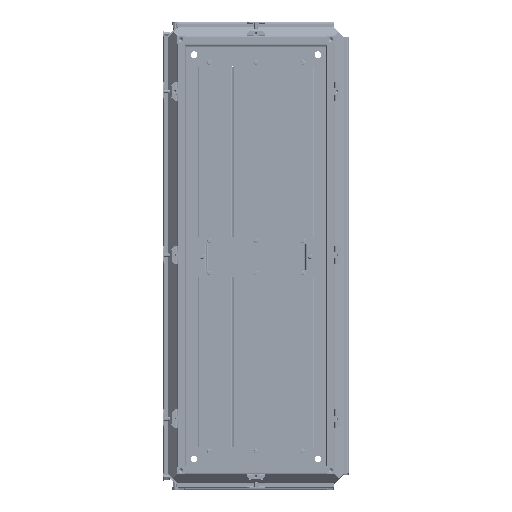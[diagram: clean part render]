
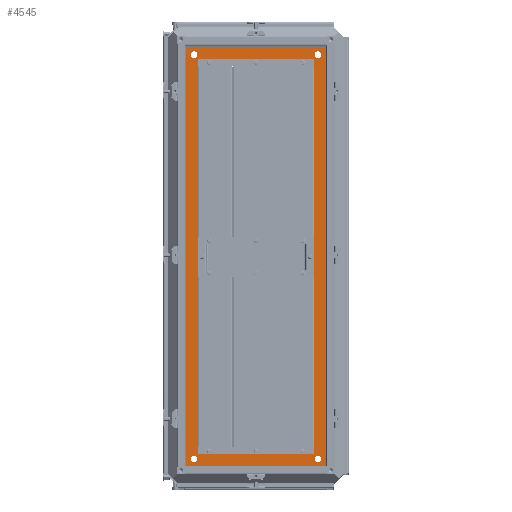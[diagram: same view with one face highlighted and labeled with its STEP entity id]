
A CAD part, top view. The second image highlights one B-rep face of the part: STEP entity #4545.
In plain terms, the highlighted planar face has unit normal (0, 0, 1).
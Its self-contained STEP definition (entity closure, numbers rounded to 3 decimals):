
#4545=ADVANCED_FACE('',(#18727,#18729,#18731,#18733,#18735,#18737),#18739,.F.);
#18727=FACE_BOUND('',#18728,.T.);
#18728=EDGE_LOOP('',(#129859,#129860,#129861,#129862));
#18729=FACE_BOUND('',#18730,.T.);
#18730=EDGE_LOOP('',(#129863,#129864,#129865,#129866));
#18731=FACE_BOUND('',#18732,.T.);
#18732=EDGE_LOOP('',(#129867));
#18733=FACE_BOUND('',#18734,.T.);
#18734=EDGE_LOOP('',(#129868));
#18735=FACE_BOUND('',#18736,.T.);
#18736=EDGE_LOOP('',(#129869));
#18737=FACE_BOUND('',#18738,.T.);
#18738=EDGE_LOOP('',(#129870));
#18739=PLANE('',#18740);
#18740=AXIS2_PLACEMENT_3D('',#18741,#18742,#18743);
#18741=CARTESIAN_POINT('',(0.,0.,-47.5));
#18742=DIRECTION('',(0.,0.,-1.));
#18743=DIRECTION('',(0.,1.,0.));
#129859=ORIENTED_EDGE('',*,*,#197113,.F.);
#129860=ORIENTED_EDGE('',*,*,#197114,.F.);
#129861=ORIENTED_EDGE('',*,*,#197115,.T.);
#129862=ORIENTED_EDGE('',*,*,#197116,.T.);
#129863=ORIENTED_EDGE('',*,*,#197117,.T.);
#129864=ORIENTED_EDGE('',*,*,#197118,.F.);
#129865=ORIENTED_EDGE('',*,*,#197119,.F.);
#129866=ORIENTED_EDGE('',*,*,#197120,.F.);
#129867=ORIENTED_EDGE('',*,*,#197121,.T.);
#129868=ORIENTED_EDGE('',*,*,#197122,.F.);
#129869=ORIENTED_EDGE('',*,*,#197123,.F.);
#129870=ORIENTED_EDGE('',*,*,#197124,.T.);
#197113=EDGE_CURVE('',#231656,#231657,#231658,.F.);
#197114=EDGE_CURVE('',#231659,#231656,#231660,.F.);
#197115=EDGE_CURVE('',#231659,#231661,#231662,.F.);
#197116=EDGE_CURVE('',#231661,#231657,#231663,.F.);
#197117=EDGE_CURVE('',#231664,#231665,#231666,.F.);
#197118=EDGE_CURVE('',#231667,#231665,#231668,.F.);
#197119=EDGE_CURVE('',#231669,#231667,#231670,.F.);
#197120=EDGE_CURVE('',#231664,#231669,#231671,.F.);
#197121=EDGE_CURVE('',#231672,#231672,#231673,.T.);
#197122=EDGE_CURVE('',#231674,#231674,#231675,.T.);
#197123=EDGE_CURVE('',#231676,#231676,#231677,.T.);
#197124=EDGE_CURVE('',#231678,#231678,#231679,.T.);
#231656=VERTEX_POINT('',#291717);
#231657=VERTEX_POINT('',#291718);
#231658=LINE('',#291719,#291720);
#231659=VERTEX_POINT('',#291722);
#231660=LINE('',#291723,#291724);
#231661=VERTEX_POINT('',#291726);
#231662=LINE('',#291727,#291728);
#231663=LINE('',#291730,#291731);
#231664=VERTEX_POINT('',#291733);
#231665=VERTEX_POINT('',#291734);
#231666=LINE('',#291735,#291736);
#231667=VERTEX_POINT('',#291738);
#231668=LINE('',#291739,#291740);
#231669=VERTEX_POINT('',#291742);
#231670=LINE('',#291743,#291744);
#231671=LINE('',#291746,#291747);
#231672=VERTEX_POINT('',#291749);
#231673=CIRCLE('',#291750,7.);
#231674=VERTEX_POINT('',#291754);
#231675=CIRCLE('',#291755,7.);
#231676=VERTEX_POINT('',#291759);
#231677=CIRCLE('',#291760,7.);
#231678=VERTEX_POINT('',#291764);
#231679=CIRCLE('',#291765,7.);
#291717=CARTESIAN_POINT('',(-1.6,1.6,-47.5));
#291718=CARTESIAN_POINT('',(-300.4,1.6,-47.5));
#291719=CARTESIAN_POINT('',(-300.4,1.6,-47.5));
#291720=VECTOR('',#291721,1.);
#291721=DIRECTION('',(1.,0.,0.));
#291722=CARTESIAN_POINT('',(-1.6,900.4,-47.5));
#291723=CARTESIAN_POINT('',(-1.6,1.6,-47.5));
#291724=VECTOR('',#291725,1.);
#291725=DIRECTION('',(0.,1.,0.));
#291726=CARTESIAN_POINT('',(-300.4,900.4,-47.5));
#291727=CARTESIAN_POINT('',(-300.4,900.4,-47.5));
#291728=VECTOR('',#291729,1.);
#291729=DIRECTION('',(1.,0.,0.));
#291730=CARTESIAN_POINT('',(-300.4,1.6,-47.5));
#291731=VECTOR('',#291732,1.);
#291732=DIRECTION('',(0.,1.,0.));
#291733=CARTESIAN_POINT('',(-39.4,39.4,-47.5));
#291734=CARTESIAN_POINT('',(-262.6,39.4,-47.5));
#291735=CARTESIAN_POINT('',(-262.6,39.4,-47.5));
#291736=VECTOR('',#291737,1.);
#291737=DIRECTION('',(1.,0.,0.));
#291738=CARTESIAN_POINT('',(-262.6,862.6,-47.5));
#291739=CARTESIAN_POINT('',(-262.6,39.4,-47.5));
#291740=VECTOR('',#291741,1.);
#291741=DIRECTION('',(0.,1.,0.));
#291742=CARTESIAN_POINT('',(-39.4,862.6,-47.5));
#291743=CARTESIAN_POINT('',(-262.6,862.6,-47.5));
#291744=VECTOR('',#291745,1.);
#291745=DIRECTION('',(1.,0.,0.));
#291746=CARTESIAN_POINT('',(-39.4,862.6,-47.5));
#291747=VECTOR('',#291748,1.);
#291748=DIRECTION('',(0.,-1.,0.));
#291749=CARTESIAN_POINT('',(-18.5,25.5,-47.5));
#291750=AXIS2_PLACEMENT_3D('',#291751,#291752,#291753);
#291751=CARTESIAN_POINT('',(-18.5,18.5,-47.5));
#291752=DIRECTION('',(0.,0.,-1.));
#291753=DIRECTION('',(0.,1.,0.));
#291754=CARTESIAN_POINT('',(-283.5,25.5,-47.5));
#291755=AXIS2_PLACEMENT_3D('',#291756,#291757,#291758);
#291756=CARTESIAN_POINT('',(-283.5,18.5,-47.5));
#291757=DIRECTION('',(0.,0.,1.));
#291758=DIRECTION('',(0.,1.,0.));
#291759=CARTESIAN_POINT('',(-18.5,876.5,-47.5));
#291760=AXIS2_PLACEMENT_3D('',#291761,#291762,#291763);
#291761=CARTESIAN_POINT('',(-18.5,883.5,-47.5));
#291762=DIRECTION('',(0.,0.,1.));
#291763=DIRECTION('',(0.,-1.,0.));
#291764=CARTESIAN_POINT('',(-283.5,876.5,-47.5));
#291765=AXIS2_PLACEMENT_3D('',#291766,#291767,#291768);
#291766=CARTESIAN_POINT('',(-283.5,883.5,-47.5));
#291767=DIRECTION('',(0.,0.,-1.));
#291768=DIRECTION('',(0.,-1.,0.));
